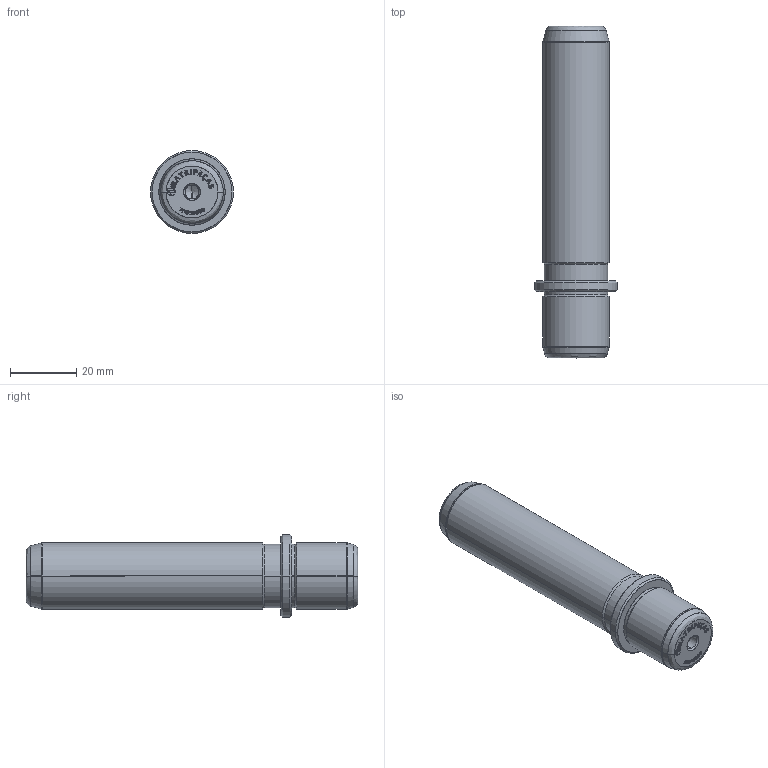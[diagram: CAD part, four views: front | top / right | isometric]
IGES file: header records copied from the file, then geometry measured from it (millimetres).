
Start section: SolidWorks IGES file using analytic representation for surfaces
Global section: file name: D:\Cleonir_arquivos\MT_15_07\Pinos Desmontáveis\PFG20080.igs; native system: SolidWorks 2013; preprocessor: SolidWorks 2013; author: Cleonir; date: 130730.162253; units: millimetre
Bounding box: 25 x 100 x 25 mm (x, y, z)
Surface area: 7519.1 mm2 (no closed solid volume)
Topology: 0 solids, 0 shells, 323 faces, 3805 edges, 3801 vertices
Faces by surface type: bspline 278, revolution 45
